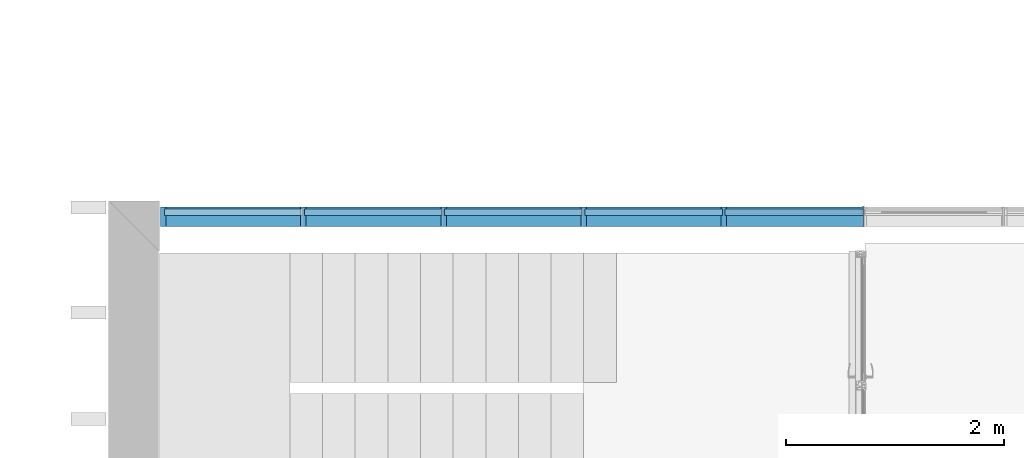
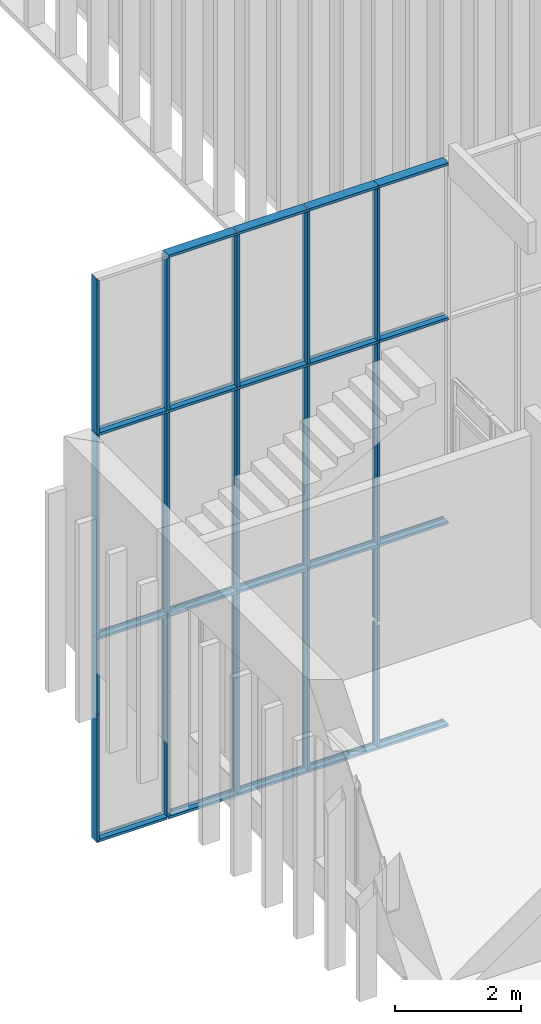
# One storey, part 3 of 62: 39 members, 1 element without a shape of its own.
"""IFC2X3 building model written with IfcOpenShell, lengths in millimetres."""

from ifc_helpers import new_model, entity, si_unit, converted_unit, derived_unit, money_unit, direction, frame, origin_with_axes, place, context, subcontext, project, spatial, polyline, outline, extrude, clip, halfspace, faceted_brep, source, transform, mapped, material, type_object, element, aggregate, save


model = new_model("IFC2X3")

# Units and contexts
model_context = context("Model", 3, precision=0.01, world=origin_with_axes(), true_north=direction((0.0, 1.0)))
body_context = subcontext(model_context, "Body", "Model", "MODEL_VIEW")
ifc_project = project(units=[si_unit("LENGTHUNIT", "METRE", prefix="MILLI"), si_unit("AREAUNIT", "SQUARE_METRE"), si_unit("VOLUMEUNIT", "CUBIC_METRE"), converted_unit("PLANEANGLEUNIT", "DEGREE", entity("IfcPlaneAngleMeasure", 0.0174532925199), si_unit("PLANEANGLEUNIT", "RADIAN"), dimensions=[0, 0, 0, 0, 0, 0, 0]), si_unit("SOLIDANGLEUNIT", "STERADIAN"), money_unit("EUR"), converted_unit("TIMEUNIT", "Year", entity("IfcTimeMeasure", 31556926.0), si_unit("TIMEUNIT", "SECOND"), dimensions=[0, 0, 1, 0, 0, 0, 0]), si_unit("MASSUNIT", "GRAM", prefix="KILO"), si_unit("THERMODYNAMICTEMPERATUREUNIT", "DEGREE_CELSIUS"), si_unit("LUMINOUSINTENSITYUNIT", "LUMEN"), si_unit("ENERGYUNIT", "JOULE", prefix="MEGA"), derived_unit("THERMALCONDUCTANCEUNIT", [(si_unit("POWERUNIT", "WATT"), 1), (si_unit("LENGTHUNIT", "METRE"), -1), (si_unit("THERMODYNAMICTEMPERATUREUNIT", "KELVIN"), -1)]), derived_unit("SPECIFICHEATCAPACITYUNIT", [(si_unit("ENERGYUNIT", "JOULE"), 1), (si_unit("MASSUNIT", "GRAM", prefix="KILO"), -1), (si_unit("THERMODYNAMICTEMPERATUREUNIT", "KELVIN"), -1)]), derived_unit("MASSDENSITYUNIT", [(si_unit("MASSUNIT", "GRAM", prefix="KILO"), 1), (si_unit("VOLUMEUNIT", "CUBIC_METRE"), -1)])], contexts=[model_context])

# Site, building, storey
site_placement = place(None, origin_with_axes())
site = spatial("IfcSite", under=ifc_project, at=site_placement, Name="Puškini 31, Narva", CompositionType="ELEMENT")
building_placement = place(site_placement, origin_with_axes())
building = spatial("IfcBuilding", under=site, at=building_placement, Name="Narva Riigigümnaasium", CompositionType="ELEMENT")
storey_placement = place(building_placement, frame((0.0, 0.0, 660.0), z_axis=(0.0, 0.0, 1.0), x_axis=(1.0, 0.0, 0.0)))
storey = spatial("IfcBuildingStorey", under=building, at=storey_placement, Name="2.korrus +0.66", CompositionType="ELEMENT", Elevation=660.0)

# Curtain wall, members
curtain_wall_type = type_object("IfcCurtainWallType", Name="Curtain Wall Type", PredefinedType="NOTDEFINED")
curtain_wall_placement = place(storey_placement, frame((29287.8078111, 224154.987122, -3960.0), z_axis=(0.0, 0.0, 1.0), x_axis=(1.0, 0.0, 0.0)))
curtain_wall = element("IfcCurtainWall", 1, at=curtain_wall_placement, inside=storey, type_object=curtain_wall_type, Name="G-KLF-05")
ifc_material = material(Name="ET-04_Alumiinium")
member_type_1 = type_object("IfcMemberType", Name="Boundary Frame 50 x 176", PredefinedType="MULLION")
shared_shape = source(origin_with_axes(), body_context, "Body", "Brep", [
    faceted_brep([(-10.0, -29.0, 1270.15069163), (-25.0, -29.0, 1240.15069189), (-25.0, -130.0, 1240.15069189), (0.0, -130.0, 1290.15069146), (0.0, 46.0, 1290.15069146), (-25.0, 46.0, 1240.15069189), (-25.0, 29.0, 1240.15069189), (-10.0, 29.0, 1270.15069163), (-10.0, -29.0, 0.0), (-25.0, -29.0, 0.0), (-25.0, -130.0, 0.0), (25.0, -130.0, 1240.15069146), (25.0, -130.0, 0.0), (25.0, -29.0, 1240.15069146), (10.0, -29.0, 1270.15069146), (10.0, 29.0, 1270.15069146), (25.0, 29.0, 1240.15069146), (25.0, 46.0, 1240.15069146), (-25.0, 46.0, 0.0), (25.0, 46.0, 0.0), (-25.0, 29.0, 0.0), (-10.0, 29.0, 0.0), (25.0, 29.0, 0.0), (10.0, 29.0, 0.0), (10.0, -29.0, 0.0), (25.0, -29.0, 0.0)], [[[0, 1, 2, 3, 4, 5, 6, 7]], [[1, 0, 8, 9]], [[1, 9, 10, 2]], [[11, 3, 2, 10, 12]], [[3, 11, 13, 14, 15, 16, 17, 4]], [[18, 5, 4, 17, 19]], [[20, 6, 5, 18]], [[7, 6, 20, 21]], [[0, 7, 21, 8]], [[21, 20, 18, 19, 22, 23, 24, 25, 12, 10, 9, 8]], [[13, 11, 12, 25]], [[13, 25, 24, 14]], [[14, 24, 23, 15]], [[16, 15, 23, 22]], [[22, 19, 17, 16]]]),
])
member_1_placement = place(curtain_wall_placement, frame((422.38310919, 0.0, 7920.0), z_axis=(-1.0, 0.0, 0.0), x_axis=(0.0, 0.0, 1.0)))
member_1 = element("IfcMember", 2, at=member_1_placement, type_object=member_type_1, material=ifc_material, Name="klaasfassaadi raam", ObjectType="MULLION", context=body_context, shape_type="MappedRepresentation", body=[
    mapped(shared_shape, transform((0.0, 0.0, 0.0))),
])
member_2_placement = place(curtain_wall_placement, frame((422.38310919, 0.0, 3960.0), z_axis=(-1.0, 0.0, 0.0), x_axis=(0.0, 0.0, 1.0)))
member_2 = element("IfcMember", 3, at=member_2_placement, type_object=member_type_1, material=ifc_material, Name="klaasfassaadi raam", ObjectType="MULLION", context=body_context, shape_type="MappedRepresentation", body=[
    mapped(shared_shape, transform((0.0, 0.0, 0.0))),
])
member_type_2 = type_object("IfcMemberType", Name="Mullion Frame 50 x 176", PredefinedType="MULLION")
member_3_placement = place(curtain_wall_placement, frame((3021.68885957, 0.0, 7920.0), z_axis=(0.0, 0.0, 1.0), x_axis=(1.0, 0.0, 0.0)))
member_3 = element("IfcMember", 4, at=member_3_placement, type_object=member_type_2, material=ifc_material, Name="klaasfassaadi raam", ObjectType="MULLION", context=body_context, shape_type="SweptSolid", body=[
    extrude(outline(polyline([(-10.0, -29.0), (-25.0, -29.0), (-25.0, -130.0), (25.0, -130.0), (25.0, -29.0), (10.0, -29.0), (10.0, 29.0), (25.0, 29.0), (25.0, 46.0), (-25.0, 46.0), (-25.0, 29.0), (-10.0, 29.0), (-10.0, -29.0)])), frame((0.0, 0.0, 25.0), z_axis=(0.0, 0.0, 1.0), x_axis=(1.0, 0.0, 0.0)), (0.0, 0.0, 1.0), 2955.00003725),
])
member_4_placement = place(curtain_wall_placement, frame((4309.84098502, 0.0, 7920.0), z_axis=(0.0, 0.0, 1.0), x_axis=(1.0, 0.0, 0.0)))
member_4 = element("IfcMember", 5, at=member_4_placement, type_object=member_type_2, material=ifc_material, Name="klaasfassaadi raam", ObjectType="MULLION", context=body_context, shape_type="SweptSolid", body=[
    extrude(outline(polyline([(-10.0, -29.0), (-25.0, -29.0), (-25.0, -130.0), (25.0, -130.0), (25.0, -29.0), (10.0, -29.0), (10.0, 29.0), (25.0, 29.0), (25.0, 46.0), (-25.0, 46.0), (-25.0, 29.0), (-10.0, 29.0), (-10.0, -29.0)])), frame((0.0, 0.0, 25.0), z_axis=(0.0, 0.0, 1.0), x_axis=(1.0, 0.0, 0.0)), (0.0, 0.0, 1.0), 2955.00003725),
])
member_5_placement = place(curtain_wall_placement, frame((1733.53667543, 0.0, 7920.0), z_axis=(-1.04509227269e-08, 0.0, 1.0), x_axis=(1.0, 0.0, 1.04509227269e-08)))
member_5 = element("IfcMember", 6, at=member_5_placement, type_object=member_type_2, material=ifc_material, Name="klaasfassaadi raam", ObjectType="MULLION", context=body_context, shape_type="SweptSolid", body=[
    extrude(outline(polyline([(-10.0, -29.0), (-25.0, -29.0), (-25.0, -130.0), (25.0, -130.0), (25.0, -29.0), (10.0, -29.0), (10.0, 29.0), (25.0, 29.0), (25.0, 46.0), (-25.0, 46.0), (-25.0, 29.0), (-10.0, 29.0), (-10.0, -29.0)])), frame((0.0, 0.0, 25.0), z_axis=(0.0, 0.0, 1.0), x_axis=(1.0, 0.0, -1.04509227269e-08)), (0.0, 0.0, 1.0), 2955.00003725),
])
member_6_placement = place(curtain_wall_placement, frame((445.384489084, 0.0, 7920.0), z_axis=(1.21587285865e-08, 0.0, 1.0), x_axis=(1.0, 0.0, -1.21587285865e-08)))
member_6 = element("IfcMember", 7, at=member_6_placement, type_object=member_type_2, material=ifc_material, Name="klaasfassaadi raam", ObjectType="MULLION", context=body_context, shape_type="SweptSolid", body=[
    extrude(outline(polyline([(-10.0, -29.0), (-25.0, -29.0), (-25.0, -130.0), (25.0, -130.0), (25.0, -29.0), (10.0, -29.0), (10.0, 29.0), (25.0, 29.0), (25.0, 46.0), (-25.0, 46.0), (-25.0, 29.0), (-10.0, 29.0), (-10.0, -29.0)])), frame((0.0, 0.0, 25.0), z_axis=(0.0, 0.0, 1.0), x_axis=(1.0, 0.0, 1.21587285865e-08)), (0.0, 0.0, 1.0), 2955.00003725),
])
member_7_placement = place(curtain_wall_placement, frame((4309.84100197, 0.0, 3960.0), z_axis=(-4.28033814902e-09, 0.0, 1.0), x_axis=(1.0, 0.0, 4.28033814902e-09)))
member_7 = element("IfcMember", 8, at=member_7_placement, type_object=member_type_2, material=ifc_material, Name="klaasfassaadi raam", ObjectType="MULLION", context=body_context, shape_type="SweptSolid", body=[
    extrude(outline(polyline([(-10.0, -29.0), (-25.0, -29.0), (-25.0, -130.0), (25.0, -130.0), (25.0, -29.0), (10.0, -29.0), (10.0, 29.0), (25.0, 29.0), (25.0, 46.0), (-25.0, 46.0), (-25.0, 29.0), (-10.0, 29.0), (-10.0, -29.0)])), frame((0.0, 0.0, 24.9999998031), z_axis=(0.0, 0.0, 1.0), x_axis=(1.0, 0.0, -4.28033814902e-09)), (0.0, 0.0, 1.0), 3910.00000039),
])
member_8_placement = place(curtain_wall_placement, frame((1733.53668043, 0.0, 3960.0), z_axis=(-1.26174626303e-09, 0.0, 1.0), x_axis=(1.0, 0.0, 1.26174626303e-09)))
member_8 = element("IfcMember", 9, at=member_8_placement, type_object=member_type_2, material=ifc_material, Name="klaasfassaadi raam", ObjectType="MULLION", context=body_context, shape_type="SweptSolid", body=[
    extrude(outline(polyline([(-10.0, -29.0), (-25.0, -29.0), (-25.0, -130.0), (25.0, -130.0), (25.0, -29.0), (10.0, -29.0), (10.0, 29.0), (25.0, 29.0), (25.0, 46.0), (-25.0, 46.0), (-25.0, 29.0), (-10.0, 29.0), (-10.0, -29.0)])), frame((0.0, 0.0, 24.9999998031), z_axis=(0.0, 0.0, 1.0), x_axis=(1.0, 0.0, -1.26174626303e-09)), (0.0, 0.0, 1.0), 3910.00000039),
])
member_9_placement = place(curtain_wall_placement, frame((3021.68886067, 0.0, 3960.0), z_axis=(-2.77673282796e-10, 0.0, 1.0), x_axis=(1.0, 0.0, 2.77673282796e-10)))
member_9 = element("IfcMember", 10, at=member_9_placement, type_object=member_type_2, material=ifc_material, Name="klaasfassaadi raam", ObjectType="MULLION", context=body_context, shape_type="SweptSolid", body=[
    extrude(outline(polyline([(-10.0, -29.0), (-25.0, -29.0), (-25.0, -130.0), (25.0, -130.0), (25.0, -29.0), (10.0, -29.0), (10.0, 29.0), (25.0, 29.0), (25.0, 46.0), (-25.0, 46.0), (-25.0, 29.0), (-10.0, 29.0), (-10.0, -29.0)])), frame((0.0, 0.0, 24.9999998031), z_axis=(0.0, 0.0, 1.0), x_axis=(1.0, 0.0, -2.77673282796e-10)), (0.0, 0.0, 1.0), 3910.00000039),
])
member_10_placement = place(curtain_wall_placement, frame((4309.84100197, 0.0, 2480.0), z_axis=(0.0, 0.0, 1.0), x_axis=(1.0, 0.0, 0.0)))
member_10 = element("IfcMember", 11, at=member_10_placement, type_object=member_type_2, material=ifc_material, Name="klaasfassaadi raam", ObjectType="MULLION", context=body_context, shape_type="SweptSolid", body=[
    extrude(outline(polyline([(-10.0, -29.0), (-25.0, -29.0), (-25.0, -130.0), (25.0, -130.0), (25.0, -29.0), (10.0, -29.0), (10.0, 29.0), (25.0, 29.0), (25.0, 46.0), (-25.0, 46.0), (-25.0, 29.0), (-10.0, 29.0), (-10.0, -29.0)])), origin_with_axes(), (0.0, 0.0, 1.0), 1455.0),
])
member_11_placement = place(curtain_wall_placement, frame((3021.68886067, 0.0, 2480.0), z_axis=(0.0, 0.0, 1.0), x_axis=(1.0, 0.0, 0.0)))
member_11 = element("IfcMember", 12, at=member_11_placement, type_object=member_type_2, material=ifc_material, Name="klaasfassaadi raam", ObjectType="MULLION", context=body_context, shape_type="SweptSolid", body=[
    extrude(outline(polyline([(-10.0, -29.0), (-25.0, -29.0), (-25.0, -130.0), (25.0, -130.0), (25.0, -29.0), (10.0, -29.0), (10.0, 29.0), (25.0, 29.0), (25.0, 46.0), (-25.0, 46.0), (-25.0, 29.0), (-10.0, 29.0), (-10.0, -29.0)])), origin_with_axes(), (0.0, 0.0, 1.0), 1455.0),
])
member_12_placement = place(curtain_wall_placement, frame((3021.68886067, 0.0, 0.0), z_axis=(0.0, 0.0, 1.0), x_axis=(1.0, 0.0, 0.0)))
member_12 = element("IfcMember", 13, at=member_12_placement, type_object=member_type_2, material=ifc_material, Name="klaasfassaadi raam", ObjectType="MULLION", context=body_context, shape_type="SweptSolid", body=[
    extrude(outline(polyline([(-10.0, -29.0), (-25.0, -29.0), (-25.0, -130.0), (25.0, -130.0), (25.0, -29.0), (10.0, -29.0), (10.0, 29.0), (25.0, 29.0), (25.0, 46.0), (-25.0, 46.0), (-25.0, 29.0), (-10.0, 29.0), (-10.0, -29.0)])), frame((0.0, 0.0, 50.0), z_axis=(0.0, 0.0, 1.0), x_axis=(1.0, 0.0, 0.0)), (0.0, 0.0, 1.0), 2430.0),
])
member_13_placement = place(curtain_wall_placement, frame((1733.53668043, 0.0, 2480.0), z_axis=(0.0, 0.0, 1.0), x_axis=(1.0, 0.0, 0.0)))
member_13 = element("IfcMember", 14, at=member_13_placement, type_object=member_type_2, material=ifc_material, Name="klaasfassaadi raam", ObjectType="MULLION", context=body_context, shape_type="SweptSolid", body=[
    extrude(outline(polyline([(-10.0, -29.0), (-25.0, -29.0), (-25.0, -130.0), (25.0, -130.0), (25.0, -29.0), (10.0, -29.0), (10.0, 29.0), (25.0, 29.0), (25.0, 46.0), (-25.0, 46.0), (-25.0, 29.0), (-10.0, 29.0), (-10.0, -29.0)])), origin_with_axes(), (0.0, 0.0, 1.0), 1455.0),
])
member_14_placement = place(curtain_wall_placement, frame((1733.53668043, 0.0, 0.0), z_axis=(0.0, 0.0, 1.0), x_axis=(1.0, 0.0, 0.0)))
member_14 = element("IfcMember", 15, at=member_14_placement, type_object=member_type_2, material=ifc_material, Name="klaasfassaadi raam", ObjectType="MULLION", context=body_context, shape_type="SweptSolid", body=[
    extrude(outline(polyline([(-10.0, -29.0), (-25.0, -29.0), (-25.0, -130.0), (25.0, -130.0), (25.0, -29.0), (10.0, -29.0), (10.0, 29.0), (25.0, 29.0), (25.0, 46.0), (-25.0, 46.0), (-25.0, 29.0), (-10.0, 29.0), (-10.0, -29.0)])), frame((0.0, 0.0, 50.0), z_axis=(0.0, 0.0, 1.0), x_axis=(1.0, 0.0, 0.0)), (0.0, 0.0, 1.0), 2430.0),
])
member_15_placement = place(curtain_wall_placement, frame((445.384525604, 0.0, 2480.0), z_axis=(0.0, 0.0, 1.0), x_axis=(1.0, 0.0, 0.0)))
member_15 = element("IfcMember", 16, at=member_15_placement, type_object=member_type_2, material=ifc_material, Name="klaasfassaadi raam", ObjectType="MULLION", context=body_context, shape_type="SweptSolid", body=[
    extrude(outline(polyline([(-10.0, -29.0), (-25.0, -29.0), (-25.0, -130.0), (25.0, -130.0), (25.0, -29.0), (10.0, -29.0), (10.0, 29.0), (25.0, 29.0), (25.0, 46.0), (-25.0, 46.0), (-25.0, 29.0), (-10.0, 29.0), (-10.0, -29.0)])), origin_with_axes(), (0.0, 0.0, 1.0), 1455.0),
])
member_16_placement = place(curtain_wall_placement, frame((445.384525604, 0.0, 0.0), z_axis=(0.0, 0.0, 1.0), x_axis=(1.0, 0.0, 0.0)))
member_16 = element("IfcMember", 17, at=member_16_placement, type_object=member_type_2, material=ifc_material, Name="klaasfassaadi raam", ObjectType="MULLION", context=body_context, shape_type="SweptSolid", body=[
    extrude(outline(polyline([(-10.0, -29.0), (-25.0, -29.0), (-25.0, -130.0), (25.0, -130.0), (25.0, -29.0), (10.0, -29.0), (10.0, 29.0), (25.0, 29.0), (25.0, 46.0), (-25.0, 46.0), (-25.0, 29.0), (-10.0, 29.0), (-10.0, -29.0)])), frame((0.0, 0.0, 50.0), z_axis=(0.0, 0.0, 1.0), x_axis=(1.0, 0.0, 0.0)), (0.0, 0.0, 1.0), 2430.0),
])
member_17_placement = place(curtain_wall_placement, frame((4309.84100197, 0.0, 0.0), z_axis=(0.0, 0.0, 1.0), x_axis=(1.0, 0.0, 0.0)))
member_17 = element("IfcMember", 18, at=member_17_placement, type_object=member_type_2, material=ifc_material, Name="klaasfassaadi raam", ObjectType="MULLION", context=body_context, shape_type="SweptSolid", body=[
    extrude(outline(polyline([(-10.0, -29.0), (-25.0, -29.0), (-25.0, -130.0), (25.0, -130.0), (25.0, -29.0), (10.0, -29.0), (10.0, 29.0), (25.0, 29.0), (25.0, 46.0), (-25.0, 46.0), (-25.0, 29.0), (-10.0, 29.0), (-10.0, -29.0)])), frame((0.0, 0.0, 50.0), z_axis=(0.0, 0.0, 1.0), x_axis=(1.0, 0.0, 0.0)), (0.0, 0.0, 1.0), 2350.00236939),
])
member_18_placement = place(curtain_wall_placement, frame((445.384525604, 0.0, 3960.0), z_axis=(-9.22221221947e-09, 0.0, 1.0), x_axis=(1.0, 0.0, 9.22221221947e-09)))
member_18 = element("IfcMember", 19, at=member_18_placement, type_object=member_type_2, material=ifc_material, Name="klaasfassaadi raam", ObjectType="MULLION", context=body_context, shape_type="SweptSolid", body=[
    extrude(outline(polyline([(-10.0, -29.0), (-25.0, -29.0), (-25.0, -130.0), (25.0, -130.0), (25.0, -29.0), (10.0, -29.0), (10.0, 29.0), (25.0, 29.0), (25.0, 46.0), (-25.0, 46.0), (-25.0, 29.0), (-10.0, 29.0), (-10.0, -29.0)])), frame((0.0, 0.0, 24.9999998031), z_axis=(0.0, 0.0, 1.0), x_axis=(1.0, 0.0, -9.22221221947e-09)), (0.0, 0.0, 1.0), 3910.00000039),
])
member_19_placement = place(curtain_wall_placement, frame((4309.84098502, 0.0, 10950.0000373), z_axis=(1.0, 0.0, 0.0), x_axis=(0.0, 0.0, -1.0)))
member_19 = element("IfcMember", 20, at=member_19_placement, type_object=member_type_1, material=ifc_material, Name="klaasfassaadi raam", ObjectType="MULLION", context=body_context, shape_type="SweptSolid", body=[
    extrude(outline(polyline([(29.0, 35.0), (-29.0, 35.0), (-29.0, 50.0), (-46.0, 50.0), (-46.0, 0.0), (130.0, 0.0), (130.0, 50.0), (29.0, 50.0), (29.0, 35.0)])), frame((0.0, 0.0, 0.0), z_axis=(0.0, 0.0, 1.0), x_axis=(0.0, -1.0, 0.0)), (0.0, 0.0, 1.0), 1283.13676715),
])
member_20_placement = place(curtain_wall_placement, frame((3021.68885957, 0.0, 10950.0000373), z_axis=(1.0, 0.0, 0.0), x_axis=(0.0, 0.0, -1.0)))
member_20 = element("IfcMember", 21, at=member_20_placement, type_object=member_type_1, material=ifc_material, Name="klaasfassaadi raam", ObjectType="MULLION", context=body_context, shape_type="SweptSolid", body=[
    extrude(outline(polyline([(29.0, 35.0), (-29.0, 35.0), (-29.0, 50.0), (-46.0, 50.0), (-46.0, 0.0), (130.0, 0.0), (130.0, 50.0), (29.0, 50.0), (29.0, 35.0)])), frame((0.0, 0.0, 0.0), z_axis=(0.0, 0.0, 1.0), x_axis=(0.0, -1.0, 0.0)), (0.0, 0.0, 1.0), 1288.15212545),
])
member_21_placement = place(curtain_wall_placement, frame((1733.53664376, 0.0, 10950.0000373), z_axis=(1.0, 0.0, 0.0), x_axis=(0.0, 0.0, -1.0)))
member_21 = element("IfcMember", 22, at=member_21_placement, type_object=member_type_1, material=ifc_material, Name="klaasfassaadi raam", ObjectType="MULLION", context=body_context, shape_type="SweptSolid", body=[
    extrude(outline(polyline([(29.0, 35.0), (-29.0, 35.0), (-29.0, 50.0), (-46.0, 50.0), (-46.0, 0.0), (130.0, 0.0), (130.0, 50.0), (29.0, 50.0), (29.0, 35.0)])), frame((0.0, 0.0, 0.0), z_axis=(0.0, 0.0, 1.0), x_axis=(0.0, -1.0, 0.0)), (0.0, 0.0, 1.0), 1269.14784835),
])
member_22_placement = place(curtain_wall_placement, frame((445.384525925, 0.0, 10950.0000373), z_axis=(1.0, 0.0, 0.0), x_axis=(0.0, 0.0, -1.0)))
member_22 = element("IfcMember", 23, at=member_22_placement, type_object=member_type_1, material=ifc_material, Name="klaasfassaadi raam", ObjectType="MULLION", context=body_context, shape_type="SweptSolid", body=[
    extrude(outline(polyline([(29.0, 35.0), (-29.0, 35.0), (-29.0, 50.0), (-46.0, 50.0), (-46.0, 0.0), (130.0, 0.0), (130.0, 50.0), (29.0, 50.0), (29.0, 35.0)])), frame((0.0, 0.0, 0.0), z_axis=(0.0, 0.0, 1.0), x_axis=(0.0, -1.0, 0.0)), (0.0, 0.0, 1.0), 1267.14927472),
])
member_23_placement = place(curtain_wall_placement, frame((-867.767582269, 0.0, 7920.0), z_axis=(0.0, 0.0, 1.0), x_axis=(1.0, 0.0, 0.0)))
member_23 = element("IfcMember", 24, at=member_23_placement, type_object=member_type_1, material=ifc_material, Name="klaasfassaadi raam", ObjectType="MULLION", context=body_context, shape_type="Clipping", body=[
    clip(clip(extrude(outline(polyline([(35.0, -29.0), (35.0, 29.0), (50.0, 29.0), (50.0, 46.0), (0.0, 46.0), (0.0, -130.0), (50.0, -130.0), (50.0, -29.0), (35.0, -29.0)])), origin_with_axes(), (0.0, 0.0, 1.0), 3030.00003725), halfspace(frame((1515.00001863, 0.0, 1515.00001863), z_axis=(-0.707106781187, 0.0, -0.707106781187), x_axis=(0.0, 1.0, 0.0)), True)), halfspace(frame((0.0, 0.0, 0.0), z_axis=(-0.4472135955, 0.0, 0.894427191), x_axis=(0.0, -1.0, 0.0)), True)),
])
member_24_placement = place(curtain_wall_placement, frame((-867.7676508, 0.0, 3960.0), z_axis=(1.73057115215e-08, 0.0, 1.0), x_axis=(1.0, 0.0, -1.73057115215e-08)))
member_24 = element("IfcMember", 25, at=member_24_placement, type_object=member_type_1, material=ifc_material, Name="klaasfassaadi raam", ObjectType="MULLION", context=body_context, shape_type="Clipping", body=[
    clip(clip(extrude(outline(polyline([(35.0, -29.0), (35.0, 29.0), (50.0, 29.0), (50.0, 46.0), (0.0, 46.0), (0.0, -130.0), (50.0, -130.0), (50.0, -29.0), (35.0, -29.0)])), frame((0.0, 0.0, 0.0), z_axis=(0.0, 0.0, 1.0), x_axis=(1.0, 0.0, 1.73057115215e-08)), (0.0, 0.0, 1.0), 3960.0), halfspace(frame((1583.99996711, 0.0, 3168.00004386), z_axis=(-0.447213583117, 0.0, -0.894427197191), x_axis=(0.0, 1.0, 0.0)), True)), halfspace(frame((0.0, 0.0, 0.0), z_axis=(-0.447213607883, 0.0, 0.894427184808), x_axis=(0.0, -1.0, 0.0)), True)),
])
member_25_placement = place(curtain_wall_placement, frame((-867.767654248, 0.0, 2480.0), z_axis=(2.32961517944e-09, 0.0, 1.0), x_axis=(1.0, 0.0, -2.32961517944e-09)))
member_25 = element("IfcMember", 26, at=member_25_placement, type_object=member_type_1, material=ifc_material, Name="klaasfassaadi raam", ObjectType="MULLION", context=body_context, shape_type="Clipping", body=[
    clip(extrude(outline(polyline([(35.0, -29.0), (35.0, 29.0), (50.0, 29.0), (50.0, 46.0), (0.0, 46.0), (0.0, -130.0), (50.0, -130.0), (50.0, -29.0), (35.0, -29.0)])), frame((0.0, 0.0, -5.63618041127e-08), z_axis=(0.0, 0.0, 1.0), x_axis=(1.0, 0.0, 2.32961517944e-09)), (0.0, 0.0, 1.0), 1480.00000006), halfspace(frame((591.999998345, 0.0, 1184.00000221), z_axis=(-0.447213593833, 0.0, -0.894427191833), x_axis=(0.0, 1.0, 0.0)), True)),
])
member_26_placement = place(curtain_wall_placement, frame((-867.767654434, 0.0, 0.0), z_axis=(0.0, 0.0, 1.0), x_axis=(1.0, 0.0, 0.0)))
member_26 = element("IfcMember", 27, at=member_26_placement, type_object=member_type_1, material=ifc_material, Name="klaasfassaadi raam", ObjectType="MULLION", context=body_context, shape_type="Clipping", body=[
    clip(extrude(outline(polyline([(35.0, -29.0), (35.0, 29.0), (50.0, 29.0), (50.0, 46.0), (0.0, 46.0), (0.0, -130.0), (50.0, -130.0), (50.0, -29.0), (35.0, -29.0)])), origin_with_axes(), (0.0, 0.0, 1.0), 2480.00000006), halfspace(frame((0.0, 0.0, 0.0), z_axis=(-0.707106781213, 0.0, 0.70710678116), x_axis=(0.0, -1.0, 0.0)), True)),
])
member_27_placement = place(curtain_wall_placement, frame((422.38310919, 0.0, 0.0), z_axis=(-1.0, 0.0, 0.0), x_axis=(0.0, 0.0, 1.0)))
member_27 = element("IfcMember", 28, at=member_27_placement, type_object=member_type_1, material=ifc_material, Name="klaasfassaadi raam", ObjectType="MULLION", context=body_context, shape_type="Clipping", body=[
    clip(extrude(outline(polyline([(-29.0, -35.0), (29.0, -35.0), (29.0, -50.0), (46.0, -50.0), (46.0, 0.0), (-130.0, 0.0), (-130.0, -50.0), (-29.0, -50.0), (-29.0, -35.0)])), frame((0.0, 0.0, 0.0), z_axis=(0.0, 0.0, 1.0), x_axis=(0.0, 1.0, 0.0)), (0.0, 0.0, 1.0), 1290.15076362), halfspace(frame((645.075381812, 0.0, 645.075381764), z_axis=(-0.707106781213, 0.0, -0.70710678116), x_axis=(0.0, 1.0, 0.0)), True)),
])
member_28_placement = place(curtain_wall_placement, frame((4309.84100197, 0.0, 0.0), z_axis=(-1.0, 0.0, 0.0), x_axis=(0.0, 0.0, 1.0)))
member_28 = element("IfcMember", 29, at=member_28_placement, type_object=member_type_1, material=ifc_material, Name="klaasfassaadi raam", ObjectType="MULLION", context=body_context, shape_type="SweptSolid", body=[
    extrude(outline(polyline([(-29.0, -35.0), (29.0, -35.0), (29.0, -50.0), (46.0, -50.0), (46.0, 0.0), (-130.0, 0.0), (-130.0, -50.0), (-29.0, -50.0), (-29.0, -35.0)])), frame((0.0, 0.0, 0.0), z_axis=(0.0, 0.0, 1.0), x_axis=(0.0, 1.0, 0.0)), (0.0, 0.0, 1.0), 1288.15212545),
])
member_29_placement = place(curtain_wall_placement, frame((4309.84100197, 0.0, 3960.0), z_axis=(-1.0, 0.0, 0.0), x_axis=(0.0, 0.0, 1.0)))
member_29 = element("IfcMember", 30, at=member_29_placement, type_object=member_type_1, material=ifc_material, Name="klaasfassaadi raam", ObjectType="MULLION", context=body_context, shape_type="SweptSolid", body=[
    extrude(outline(polyline([(-29.0, 10.0), (-29.0, 25.0), (-130.0, 25.0), (-130.0, -25.0), (-29.0, -25.0), (-29.0, -10.0), (29.0, -10.0), (29.0, -25.0), (46.0, -25.0), (46.0, 25.0), (29.0, 25.0), (29.0, 10.0), (-29.0, 10.0)])), frame((0.0, 0.0, 0.0), z_axis=(0.0, 0.0, 1.0), x_axis=(0.0, 1.0, 0.0)), (0.0, 0.0, 1.0), 1288.1521413),
])
member_30_placement = place(curtain_wall_placement, frame((5592.97775217, 0.0, 7920.0), z_axis=(-1.0, 0.0, 0.0), x_axis=(0.0, 0.0, 1.0)))
member_30 = element("IfcMember", 31, at=member_30_placement, type_object=member_type_1, material=ifc_material, Name="klaasfassaadi raam", ObjectType="MULLION", context=body_context, shape_type="SweptSolid", body=[
    extrude(outline(polyline([(-29.0, 10.0), (-29.0, 25.0), (-130.0, 25.0), (-130.0, -25.0), (-29.0, -25.0), (-29.0, -10.0), (29.0, -10.0), (29.0, -25.0), (46.0, -25.0), (46.0, 25.0), (29.0, 25.0), (29.0, 10.0), (-29.0, 10.0)])), frame((0.0, 0.0, 0.0), z_axis=(0.0, 0.0, 1.0), x_axis=(0.0, 1.0, 0.0)), (0.0, 0.0, 1.0), 1283.13676715),
])
member_31_placement = place(curtain_wall_placement, frame((3002.68449211, 0.0, 7920.0), z_axis=(-1.0, 0.0, 0.0), x_axis=(0.0, 0.0, 1.0)))
member_31 = element("IfcMember", 32, at=member_31_placement, type_object=member_type_1, material=ifc_material, Name="klaasfassaadi raam", ObjectType="MULLION", context=body_context, shape_type="SweptSolid", body=[
    extrude(outline(polyline([(-29.0, 10.0), (-29.0, 25.0), (-130.0, 25.0), (-130.0, -25.0), (-29.0, -25.0), (-29.0, -10.0), (29.0, -10.0), (29.0, -25.0), (46.0, -25.0), (46.0, 25.0), (29.0, 25.0), (29.0, 10.0), (-29.0, 10.0)])), frame((0.0, 0.0, 0.0), z_axis=(0.0, 0.0, 1.0), x_axis=(0.0, 1.0, 0.0)), (0.0, 0.0, 1.0), 1269.14781668),
])
member_32_placement = place(curtain_wall_placement, frame((4309.84098502, 0.0, 7920.0), z_axis=(-1.0, 0.0, 0.0), x_axis=(0.0, 0.0, 1.0)))
member_32 = element("IfcMember", 33, at=member_32_placement, type_object=member_type_1, material=ifc_material, Name="klaasfassaadi raam", ObjectType="MULLION", context=body_context, shape_type="SweptSolid", body=[
    extrude(outline(polyline([(-29.0, 10.0), (-29.0, 25.0), (-130.0, 25.0), (-130.0, -25.0), (-29.0, -25.0), (-29.0, -10.0), (29.0, -10.0), (29.0, -25.0), (46.0, -25.0), (46.0, 25.0), (29.0, 25.0), (29.0, 10.0), (-29.0, 10.0)])), frame((0.0, 0.0, 0.0), z_axis=(0.0, 0.0, 1.0), x_axis=(0.0, 1.0, 0.0)), (0.0, 0.0, 1.0), 1288.1521413),
])
member_33_placement = place(curtain_wall_placement, frame((5592.97775217, 0.0, 3960.0), z_axis=(-1.0, 0.0, 0.0), x_axis=(0.0, 0.0, 1.0)))
member_33 = element("IfcMember", 34, at=member_33_placement, type_object=member_type_1, material=ifc_material, Name="klaasfassaadi raam", ObjectType="MULLION", context=body_context, shape_type="SweptSolid", body=[
    extrude(outline(polyline([(-29.0, 10.0), (-29.0, 25.0), (-130.0, 25.0), (-130.0, -25.0), (-29.0, -25.0), (-29.0, -10.0), (29.0, -10.0), (29.0, -25.0), (46.0, -25.0), (46.0, 25.0), (29.0, 25.0), (29.0, 10.0), (-29.0, 10.0)])), frame((0.0, 0.0, 0.0), z_axis=(0.0, 0.0, 1.0), x_axis=(0.0, 1.0, 0.0)), (0.0, 0.0, 1.0), 1283.13676715),
])
member_34_placement = place(curtain_wall_placement, frame((3002.68449211, 0.0, 3960.0), z_axis=(-1.0, 0.0, 0.0), x_axis=(0.0, 0.0, 1.0)))
member_34 = element("IfcMember", 35, at=member_34_placement, type_object=member_type_1, material=ifc_material, Name="klaasfassaadi raam", ObjectType="MULLION", context=body_context, shape_type="SweptSolid", body=[
    extrude(outline(polyline([(-29.0, 10.0), (-29.0, 25.0), (-130.0, 25.0), (-130.0, -25.0), (-29.0, -25.0), (-29.0, -10.0), (29.0, -10.0), (29.0, -25.0), (46.0, -25.0), (46.0, 25.0), (29.0, 25.0), (29.0, 10.0), (-29.0, 10.0)])), frame((0.0, 0.0, 0.0), z_axis=(0.0, 0.0, 1.0), x_axis=(0.0, 1.0, 0.0)), (0.0, 0.0, 1.0), 1269.14781668),
])
member_35_placement = place(curtain_wall_placement, frame((1712.53380065, 0.0, 3960.0), z_axis=(-1.0, 0.0, 0.0), x_axis=(0.0, 0.0, 1.0)))
member_35 = element("IfcMember", 36, at=member_35_placement, type_object=member_type_1, material=ifc_material, Name="klaasfassaadi raam", ObjectType="MULLION", context=body_context, shape_type="SweptSolid", body=[
    extrude(outline(polyline([(-29.0, 10.0), (-29.0, 25.0), (-130.0, 25.0), (-130.0, -25.0), (-29.0, -25.0), (-29.0, -10.0), (29.0, -10.0), (29.0, -25.0), (46.0, -25.0), (46.0, 25.0), (29.0, 25.0), (29.0, 10.0), (-29.0, 10.0)])), frame((0.0, 0.0, 0.0), z_axis=(0.0, 0.0, 1.0), x_axis=(0.0, 1.0, 0.0)), (0.0, 0.0, 1.0), 1267.14927505),
])
member_36_placement = place(curtain_wall_placement, frame((5592.97775217, 0.0, 0.0), z_axis=(-1.0, 0.0, 0.0), x_axis=(0.0, 0.0, 1.0)))
member_36 = element("IfcMember", 37, at=member_36_placement, type_object=member_type_1, material=ifc_material, Name="klaasfassaadi raam", ObjectType="MULLION", context=body_context, shape_type="SweptSolid", body=[
    extrude(outline(polyline([(-29.0, -35.0), (29.0, -35.0), (29.0, -50.0), (46.0, -50.0), (46.0, 0.0), (-130.0, 0.0), (-130.0, -50.0), (-29.0, -50.0), (-29.0, -35.0)])), frame((0.0, 0.0, 0.0), z_axis=(0.0, 0.0, 1.0), x_axis=(0.0, 1.0, 0.0)), (0.0, 0.0, 1.0), 1283.13676715),
])
member_37_placement = place(curtain_wall_placement, frame((3002.68449211, 0.0, 0.0), z_axis=(-1.0, 0.0, 0.0), x_axis=(0.0, 0.0, 1.0)))
member_37 = element("IfcMember", 38, at=member_37_placement, type_object=member_type_1, material=ifc_material, Name="klaasfassaadi raam", ObjectType="MULLION", context=body_context, shape_type="SweptSolid", body=[
    extrude(outline(polyline([(-29.0, -35.0), (29.0, -35.0), (29.0, -50.0), (46.0, -50.0), (46.0, 0.0), (-130.0, 0.0), (-130.0, -50.0), (-29.0, -50.0), (-29.0, -35.0)])), frame((0.0, 0.0, 0.0), z_axis=(0.0, 0.0, 1.0), x_axis=(0.0, 1.0, 0.0)), (0.0, 0.0, 1.0), 1269.14784835),
])
member_38_placement = place(curtain_wall_placement, frame((1712.53380065, 0.0, 0.0), z_axis=(-1.0, 0.0, 0.0), x_axis=(0.0, 0.0, 1.0)))
member_38 = element("IfcMember", 39, at=member_38_placement, type_object=member_type_1, material=ifc_material, Name="klaasfassaadi raam", ObjectType="MULLION", context=body_context, shape_type="SweptSolid", body=[
    extrude(outline(polyline([(-29.0, -35.0), (29.0, -35.0), (29.0, -50.0), (46.0, -50.0), (46.0, 0.0), (-130.0, 0.0), (-130.0, -50.0), (-29.0, -50.0), (-29.0, -35.0)])), frame((0.0, 0.0, 0.0), z_axis=(0.0, 0.0, 1.0), x_axis=(0.0, 1.0, 0.0)), (0.0, 0.0, 1.0), 1267.14927472),
])
member_39_placement = place(curtain_wall_placement, frame((1712.53380065, 0.0, 7920.0), z_axis=(-1.0, 0.0, 0.0), x_axis=(0.0, 0.0, 1.0)))
member_39 = element("IfcMember", 40, at=member_39_placement, type_object=member_type_1, material=ifc_material, Name="klaasfassaadi raam", ObjectType="MULLION", context=body_context, shape_type="SweptSolid", body=[
    extrude(outline(polyline([(-29.0, 10.0), (-29.0, 25.0), (-130.0, 25.0), (-130.0, -25.0), (-29.0, -25.0), (-29.0, -10.0), (29.0, -10.0), (29.0, -25.0), (46.0, -25.0), (46.0, 25.0), (29.0, 25.0), (29.0, 10.0), (-29.0, 10.0)])), frame((0.0, 0.0, 0.0), z_axis=(0.0, 0.0, 1.0), x_axis=(0.0, 1.0, 0.0)), (0.0, 0.0, 1.0), 1267.14927505),
])
aggregate(curtain_wall, [member_19, member_3, member_4, member_20, member_21, member_5, member_22, member_6, member_23, member_24, member_25, member_26, member_27, member_1, member_2, member_28, member_29, member_30, member_7, member_8, member_31, member_32, member_9, member_33, member_34, member_35, member_10, member_36, member_11, member_12, member_13, member_37, member_14, member_15, member_38, member_16, member_17, member_18, member_39])

save(model, "model.ifc")
